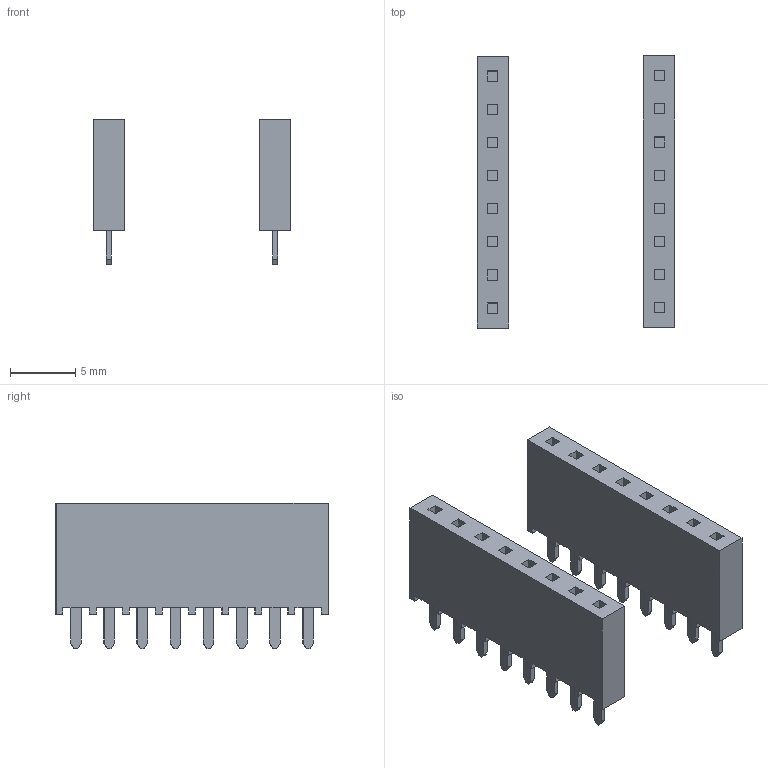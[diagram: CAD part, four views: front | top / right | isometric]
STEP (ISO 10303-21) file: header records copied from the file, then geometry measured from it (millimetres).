
FILE_DESCRIPTION(('FreeCAD Model'),'2;1');
FILE_NAME('C:/Users/cr185092/Documents/KiCAD_Projects/VORON_V2.0_Expander_option2/VORON_V2.0.pretty/3D_Models\Steppers.step', '2017-11-19T13:12:23',('kicad StepUp'),('ksu MCAD'), 'Open CASCADE STEP processor 6.8','FreeCAD','Unknown');
FILE_SCHEMA(('AUTOMOTIVE_DESIGN_CC2 { 1 2 10303 214 -1 1 5 4 }'));
Length unit declared in the file: millimetre
Products named in the file (1): Steppers
Bounding box: 15.16 x 20.85 x 11.15 mm (x, y, z)
Volume: 754.7 mm3; surface area: 1514 mm2
Topology: 2 solids, 2 shells, 396 faces, 1016 edges, 656 vertices
Faces by surface type: plane 396
Entity records: 14451 total; most frequent: CARTESIAN_POINT 2069, ORIENTED_EDGE 2032, DIRECTION 1810, EDGE_CURVE 1016, LINE 1016, VECTOR 1016, VERTEX_POINT 656, FACE_BOUND 428
